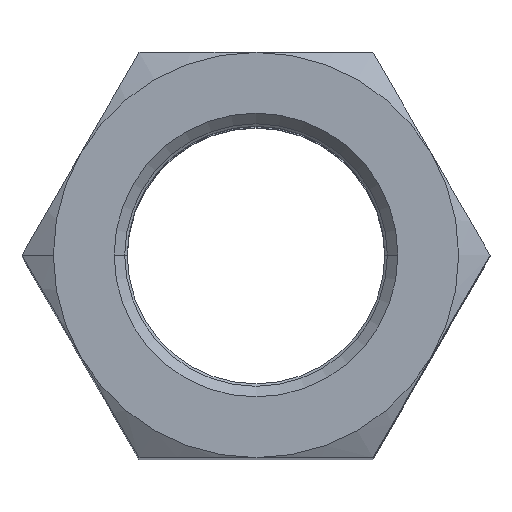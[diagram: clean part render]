
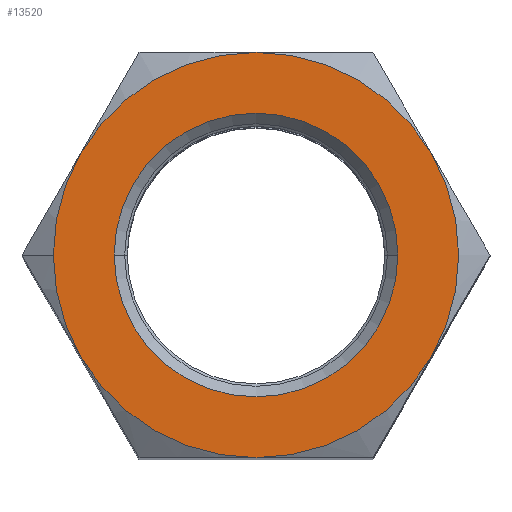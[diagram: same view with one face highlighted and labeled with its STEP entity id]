
A CAD part, top view. The second image highlights one B-rep face of the part: STEP entity #13520.
In plain terms, the highlighted planar face has unit normal (0, 0, 1).
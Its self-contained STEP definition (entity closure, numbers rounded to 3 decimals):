
#127 = CARTESIAN_POINT ( 'NONE',  ( 0., 0., 32.5 ) ) ;
#149 = CARTESIAN_POINT ( 'NONE',  ( 0., 0., 32.5 ) ) ;
#441 = AXIS2_PLACEMENT_3D ( 'NONE', #7798, #7778, #7733 ) ;
#624 = DIRECTION ( 'NONE',  ( 1., 0., 0. ) ) ;
#743 = ORIENTED_EDGE ( 'NONE', *, *, #5754, .F. ) ;
#1037 = ORIENTED_EDGE ( 'NONE', *, *, #11391, .F. ) ;
#1341 = CARTESIAN_POINT ( 'NONE',  ( -8.4, 0., 32.5 ) ) ;
#1479 = ORIENTED_EDGE ( 'NONE', *, *, #3053, .F. ) ;
#1598 = DIRECTION ( 'NONE',  ( -1., 0., 0. ) ) ;
#1619 = DIRECTION ( 'NONE',  ( 1., 0., 0. ) ) ;
#1641 = CARTESIAN_POINT ( 'NONE',  ( 10.392, -6., 32.5 ) ) ;
#1756 = VERTEX_POINT ( 'NONE', #6697 ) ;
#1902 = EDGE_CURVE ( 'NONE', #4960, #4746, #12955, .T. ) ;
#1977 = CARTESIAN_POINT ( 'NONE',  ( 0., 12., 32.5 ) ) ;
#2148 = CIRCLE ( 'NONE', #3992, 12. ) ;
#2266 = CIRCLE ( 'NONE', #8379, 12. ) ;
#2321 = FACE_OUTER_BOUND ( 'NONE', #12619, .T. ) ;
#2352 = VERTEX_POINT ( 'NONE', #15647 ) ;
#3053 = EDGE_CURVE ( 'NONE', #1756, #2352, #4757, .T. ) ;
#3075 = CARTESIAN_POINT ( 'NONE',  ( 0., 0., 32.5 ) ) ;
#3369 = DIRECTION ( 'NONE',  ( 0., 0., -1. ) ) ;
#3416 = CIRCLE ( 'NONE', #18918, 12. ) ;
#3534 = AXIS2_PLACEMENT_3D ( 'NONE', #18291, #9520, #624 ) ;
#3801 = VERTEX_POINT ( 'NONE', #11133 ) ;
#3992 = AXIS2_PLACEMENT_3D ( 'NONE', #14120, #13906, #13894 ) ;
#4529 = DIRECTION ( 'NONE',  ( 0., 0., -1. ) ) ;
#4557 = DIRECTION ( 'NONE',  ( 1., 0., 0. ) ) ;
#4746 = VERTEX_POINT ( 'NONE', #9041 ) ;
#4757 = CIRCLE ( 'NONE', #441, 12. ) ;
#4872 = CARTESIAN_POINT ( 'NONE',  ( 10.392, 6., 32.5 ) ) ;
#4960 = VERTEX_POINT ( 'NONE', #1341 ) ;
#5047 = DIRECTION ( 'NONE',  ( 1., 0., 0. ) ) ;
#5072 = DIRECTION ( 'NONE',  ( 0., 0., 1. ) ) ;
#5091 = CARTESIAN_POINT ( 'NONE',  ( 0., 0., 32.5 ) ) ;
#5201 = CARTESIAN_POINT ( 'NONE',  ( -13.856, 0., 32.5 ) ) ;
#5754 = EDGE_CURVE ( 'NONE', #3801, #16365, #2148, .T. ) ;
#5886 = AXIS2_PLACEMENT_3D ( 'NONE', #5201, #15540, #6706 ) ;
#6245 = AXIS2_PLACEMENT_3D ( 'NONE', #13389, #4529, #14893 ) ;
#6640 = PLANE ( 'NONE',  #5886 ) ;
#6697 = CARTESIAN_POINT ( 'NONE',  ( 0., -12., 32.5 ) ) ;
#6706 = DIRECTION ( 'NONE',  ( 1., 0., 0. ) ) ;
#7496 = EDGE_CURVE ( 'NONE', #16365, #11542, #14592, .T. ) ;
#7733 = DIRECTION ( 'NONE',  ( 1., 0., 0. ) ) ;
#7740 = EDGE_LOOP ( 'NONE', ( #16678, #17114 ) ) ;
#7778 = DIRECTION ( 'NONE',  ( 0., 0., -1. ) ) ;
#7798 = CARTESIAN_POINT ( 'NONE',  ( 0., 0., 32.5 ) ) ;
#8379 = AXIS2_PLACEMENT_3D ( 'NONE', #12255, #3369, #13715 ) ;
#9041 = CARTESIAN_POINT ( 'NONE',  ( 8.4, 0., 32.5 ) ) ;
#9520 = DIRECTION ( 'NONE',  ( 0., 0., -1. ) ) ;
#10150 = EDGE_CURVE ( 'NONE', #4746, #4960, #14712, .T. ) ;
#10198 = AXIS2_PLACEMENT_3D ( 'NONE', #5091, #5072, #5047 ) ;
#10531 = DIRECTION ( 'NONE',  ( 0., 0., -1. ) ) ;
#10554 = DIRECTION ( 'NONE',  ( 0., 0., -1. ) ) ;
#11129 = EDGE_CURVE ( 'NONE', #11542, #17737, #13167, .T. ) ;
#11133 = CARTESIAN_POINT ( 'NONE',  ( -12., 0., 32.5 ) ) ;
#11172 = CIRCLE ( 'NONE', #6245, 12. ) ;
#11391 = EDGE_CURVE ( 'NONE', #2352, #3801, #3416, .T. ) ;
#11542 = VERTEX_POINT ( 'NONE', #1977 ) ;
#12255 = CARTESIAN_POINT ( 'NONE',  ( 0., 0., 32.5 ) ) ;
#12619 = EDGE_LOOP ( 'NONE', ( #17567, #18237, #18682, #19099, #743, #1037, #1479 ) ) ;
#12955 = CIRCLE ( 'NONE', #10198, 8.4 ) ;
#13167 = CIRCLE ( 'NONE', #3534, 12. ) ;
#13389 = CARTESIAN_POINT ( 'NONE',  ( 0., 0., 32.5 ) ) ;
#13416 = DIRECTION ( 'NONE',  ( 0., 0., 1. ) ) ;
#13520 = ADVANCED_FACE ( 'NONE', ( #14613, #2321 ), #6640, .T. ) ;
#13715 = DIRECTION ( 'NONE',  ( 1., 0., 0. ) ) ;
#13894 = DIRECTION ( 'NONE',  ( 1., 0., 0. ) ) ;
#13906 = DIRECTION ( 'NONE',  ( 0., 0., -1. ) ) ;
#13959 = CARTESIAN_POINT ( 'NONE',  ( -10.392, 6., 32.5 ) ) ;
#14120 = CARTESIAN_POINT ( 'NONE',  ( 0., 0., 32.5 ) ) ;
#14269 = AXIS2_PLACEMENT_3D ( 'NONE', #127, #10531, #1598 ) ;
#14592 = CIRCLE ( 'NONE', #14269, 12. ) ;
#14613 = FACE_BOUND ( 'NONE', #7740, .T. ) ;
#14712 = CIRCLE ( 'NONE', #15991, 8.4 ) ;
#14893 = DIRECTION ( 'NONE',  ( 1., 0., 0. ) ) ;
#15044 = EDGE_CURVE ( 'NONE', #17737, #18405, #11172, .T. ) ;
#15540 = DIRECTION ( 'NONE',  ( 0., 0., 1. ) ) ;
#15647 = CARTESIAN_POINT ( 'NONE',  ( -10.392, -6., 32.5 ) ) ;
#15991 = AXIS2_PLACEMENT_3D ( 'NONE', #3075, #13416, #4557 ) ;
#16365 = VERTEX_POINT ( 'NONE', #13959 ) ;
#16678 = ORIENTED_EDGE ( 'NONE', *, *, #1902, .F. ) ;
#17114 = ORIENTED_EDGE ( 'NONE', *, *, #10150, .F. ) ;
#17567 = ORIENTED_EDGE ( 'NONE', *, *, #17721, .F. ) ;
#17721 = EDGE_CURVE ( 'NONE', #18405, #1756, #2266, .T. ) ;
#17737 = VERTEX_POINT ( 'NONE', #4872 ) ;
#18237 = ORIENTED_EDGE ( 'NONE', *, *, #15044, .F. ) ;
#18291 = CARTESIAN_POINT ( 'NONE',  ( 0., 0., 32.5 ) ) ;
#18405 = VERTEX_POINT ( 'NONE', #1641 ) ;
#18682 = ORIENTED_EDGE ( 'NONE', *, *, #11129, .F. ) ;
#18918 = AXIS2_PLACEMENT_3D ( 'NONE', #149, #10554, #1619 ) ;
#19099 = ORIENTED_EDGE ( 'NONE', *, *, #7496, .F. ) ;
